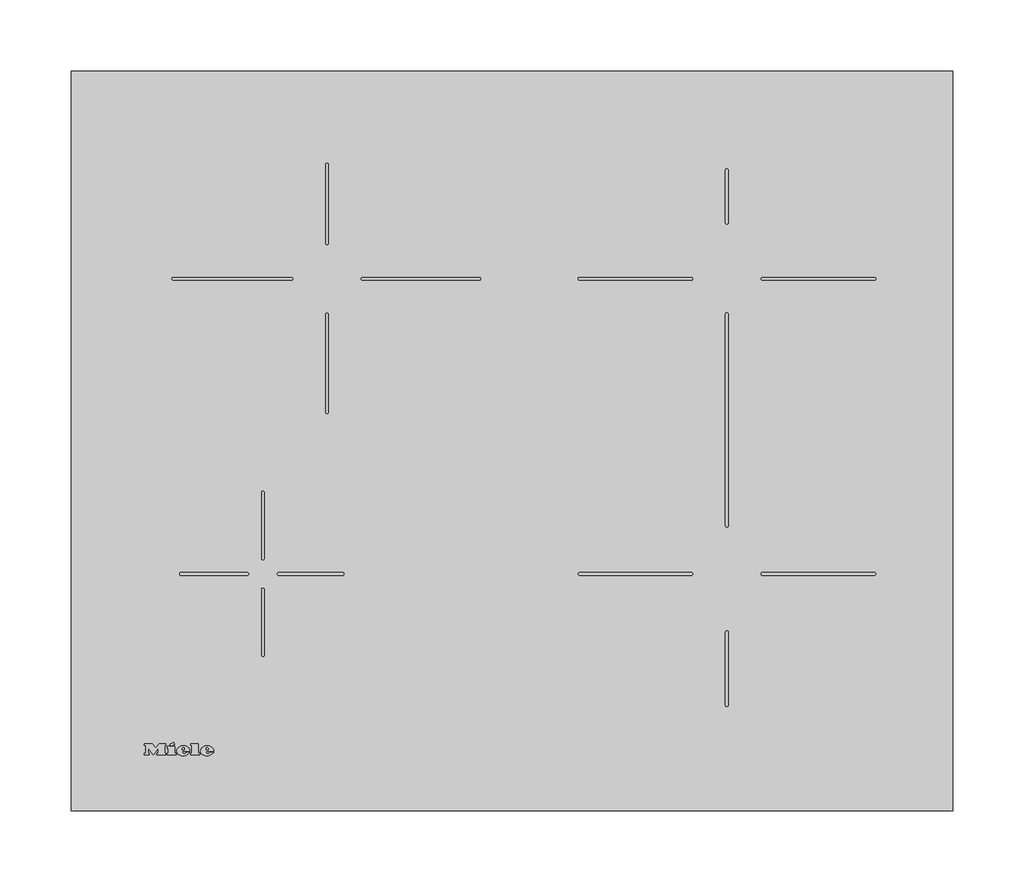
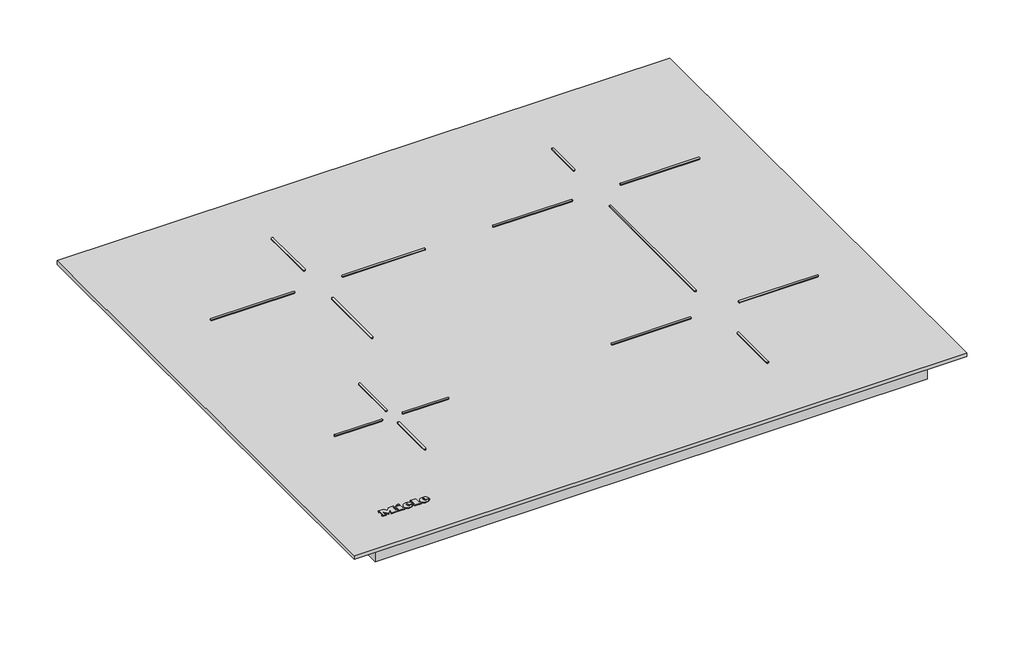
# Not in any storey: 1 proxy.
"""IFC4 building model written with IfcOpenShell, lengths in millimetres."""

import ifcopenshell
import ifcopenshell.guid

model = None  # the IFC model being written
_history = None  # IfcOwnerHistory: only IFC2X3 demands one
_inside = {}  # id of a spatial element -> (the spatial element, [elements in it])
_under = {}  # id of a project, library or spatial element -> (it, [spatial elements below it])
_declared = {}  # id of a project -> (the project, [libraries it declares])
_typed = {}  # id of a type object -> (the type object, [elements of that type])
_made_of = {}  # id of a material, layer set ... -> (it, [elements and type objects made of it])


def new_model(schema):
    """Start an empty IFC model of exactly this schema.

    Asked for "IFC4X3", IfcOpenShell would pick the latest addendum, in which some entities
    have other attributes; the version numbers below select the first issue.
    IFC2X3 requires an IfcOwnerHistory on every rooted entity: one is made here for all.
    """
    global model, _history
    if schema == "IFC4X3":
        model = ifcopenshell.file(schema_version=(4, 3, 0, 0))
    else:
        model = ifcopenshell.file(schema=schema)
    _inside.clear()
    _under.clear()
    _declared.clear()
    _typed.clear()
    _made_of.clear()
    _history = None
    if model.schema == "IFC2X3":
        org = make("IfcOrganization", Name="unknown")
        user = make(
            "IfcPersonAndOrganization",
            ThePerson=make("IfcPerson", FamilyName="unknown"),
            TheOrganization=org,
        )
        app = make(
            "IfcApplication",
            ApplicationDeveloper=org,
            Version="unknown",
            ApplicationFullName="unknown",
            ApplicationIdentifier="unknown",
        )
        _history = make(
            "IfcOwnerHistory",
            OwningUser=user,
            OwningApplication=app,
            ChangeAction="ADDED",
            CreationDate=0,
        )
    return model


def make(cls, **values):
    """One entity of the class cls with the attributes given. An attribute that is None is left unset."""
    return model.create_entity(
        cls, **{name: value for name, value in values.items() if value is not None}
    )


def rooted(cls, **values):
    """An entity with a GlobalId (a new one), such as an element, a storey or a relation."""
    return make(cls, GlobalId=ifcopenshell.guid.new(), OwnerHistory=_history, **values)


def si_unit(unit_type, name, prefix=None):
    """IfcSIUnit, for example si_unit("LENGTHUNIT", "METRE", prefix="MILLI")."""
    return make("IfcSIUnit", UnitType=unit_type, Prefix=prefix, Name=name)


def assignment(units):
    """IfcUnitAssignment: the units of a project."""
    return None if units is None else make("IfcUnitAssignment", Units=units)


def point(xyz):
    """IfcCartesianPoint."""
    return None if xyz is None else make("IfcCartesianPoint", Coordinates=xyz)


def direction(xyz):
    """IfcDirection."""
    return None if xyz is None else make("IfcDirection", DirectionRatios=xyz)


def frame(location, z_axis=None, x_axis=None):
    """IfcAxis2Placement3D, a coordinate frame: its origin and axes. An axis left out is left unset."""
    return make(
        "IfcAxis2Placement3D",
        Location=point(location),
        Axis=direction(z_axis),
        RefDirection=direction(x_axis),
    )


def frame_2d(location, x_axis=None):
    """IfcAxis2Placement2D, a coordinate frame in the plane: its origin and x axis."""
    return make(
        "IfcAxis2Placement2D", Location=point(location), RefDirection=direction(x_axis)
    )


def origin():
    """The frame at (0, 0, 0) with its axes left unset."""
    return frame((0.0, 0.0, 0.0))


def origin_with_axes():
    """The frame at (0, 0, 0) with the z axis (0, 0, 1) and the x axis (1, 0, 0) written out."""
    return frame((0.0, 0.0, 0.0), z_axis=(0.0, 0.0, 1.0), x_axis=(1.0, 0.0, 0.0))


def place(relative_to, where):
    """IfcLocalPlacement: puts the frame where relative to a parent placement (None: the world)."""
    return make(
        "IfcLocalPlacement", PlacementRelTo=relative_to, RelativePlacement=where
    )


def context(
    kind, dimensions, precision=None, world=None, true_north=None, identifier=None
):
    """IfcGeometricRepresentationContext, for example the 3D "Model" context."""
    return make(
        "IfcGeometricRepresentationContext",
        ContextIdentifier=identifier,
        ContextType=kind,
        CoordinateSpaceDimension=dimensions,
        Precision=precision,
        WorldCoordinateSystem=world,
        TrueNorth=true_north,
    )


def project(units=None, contexts=None):
    """IfcProject with its units and contexts."""
    return rooted(
        "IfcProject",
        Name="project",
        RepresentationContexts=contexts,
        UnitsInContext=assignment(units),
    )


def spatial(cls, under=None, at=None, **own):
    """A site, building, storey or space (cls), placed at a placement, below another one or the project."""
    s = rooted(cls, ObjectPlacement=at, **own)
    if under is not None:
        _under.setdefault(under.id(), (under, []))[1].append(s)
    return s


def polyline(points):
    """IfcPolyline through the points."""
    return make("IfcPolyline", Points=[point(p) for p in points])


def circle_curve(where, radius):
    """IfcCircle in the frame where."""
    return make("IfcCircle", Position=where, Radius=radius)


def ellipse_curve(where, semi_axis1, semi_axis2):
    """IfcEllipse in the frame where."""
    return make(
        "IfcEllipse", Position=where, SemiAxis1=semi_axis1, SemiAxis2=semi_axis2
    )


def trimmed(basis, trim1, trim2, sense, master):
    """IfcTrimmedCurve: the piece of a basis curve between two trims."""
    return make(
        "IfcTrimmedCurve",
        BasisCurve=basis,
        Trim1=trim1,
        Trim2=trim2,
        SenseAgreement=sense,
        MasterRepresentation=master,
    )


def segment(curve, same_sense, transition):
    """IfcCompositeCurveSegment."""
    return make(
        "IfcCompositeCurveSegment",
        Transition=transition,
        SameSense=same_sense,
        ParentCurve=curve,
    )


def composite_curve(segments, self_intersect=None):
    """IfcCompositeCurve: segments joined end to end."""
    return make("IfcCompositeCurve", Segments=segments, SelfIntersect=self_intersect)


def outline(outer, holes=None, kind="AREA"):
    """IfcArbitraryClosedProfileDef: a profile drawn as a closed curve; with holes, ...WithVoids."""
    if holes is None:
        return make("IfcArbitraryClosedProfileDef", ProfileType=kind, OuterCurve=outer)
    return make(
        "IfcArbitraryProfileDefWithVoids",
        ProfileType=kind,
        OuterCurve=outer,
        InnerCurves=holes,
    )


def extrude(swept, where, along, depth):
    """IfcExtrudedAreaSolid: the profile swept, set in the frame where, extruded along a direction by depth."""
    return make(
        "IfcExtrudedAreaSolid",
        SweptArea=swept,
        Position=where,
        ExtrudedDirection=direction(along),
        Depth=depth,
    )


def shape(context_of_items, identifier, shape_type, items):
    """IfcShapeRepresentation: the items that make up one representation, for example the "Body"."""
    return make(
        "IfcShapeRepresentation",
        ContextOfItems=context_of_items,
        RepresentationIdentifier=identifier,
        RepresentationType=shape_type,
        Items=items,
    )


def source(mapping_origin, context_of_items, identifier, shape_type, items):
    """IfcRepresentationMap: a shape defined once, which mapped items show again and again."""
    return make(
        "IfcRepresentationMap",
        MappingOrigin=mapping_origin,
        MappedRepresentation=shape(context_of_items, identifier, shape_type, items),
    )


def transform(
    local_origin,
    x_axis=None,
    y_axis=None,
    z_axis=None,
    scale=None,
    scale2=None,
    scale3=None,
    uniform=True,
):
    """IfcCartesianTransformationOperator3D, or its non-uniform kind. x_axis, y_axis, z_axis: its Axis1, 2, 3."""
    if uniform:
        return make(
            "IfcCartesianTransformationOperator3D",
            Axis1=direction(x_axis),
            Axis2=direction(y_axis),
            LocalOrigin=point(local_origin),
            Scale=scale,
            Axis3=direction(z_axis),
        )
    return make(
        "IfcCartesianTransformationOperator3DnonUniform",
        Axis1=direction(x_axis),
        Axis2=direction(y_axis),
        LocalOrigin=point(local_origin),
        Scale=scale,
        Axis3=direction(z_axis),
        Scale2=scale2,
        Scale3=scale3,
    )


def mapped(mapping_source, mapping_target):
    """IfcMappedItem: shows the shape of a source again, moved by a transform."""
    return make(
        "IfcMappedItem", MappingSource=mapping_source, MappingTarget=mapping_target
    )


def made_of(thing, what):
    """Note that an element or type object is made of a material, layer set ...; save() writes the relation."""
    if what is not None:
        _made_of.setdefault(what.id(), (what, []))[1].append(thing)
    return thing


def element(
    cls,
    number,
    at=None,
    inside=None,
    cuts=None,
    type_object=None,
    material=None,
    context=None,
    identifier="Body",
    shape_type=None,
    held_by="IfcProductDefinitionShape",
    body=None,
    shapes=None,
    **own,
):
    """One element of the class cls, such as IfcWall. Its Tag is "e" and its number.

    at: its placement. inside: the storey or other place that contains it. cuts: it is an
    opening in that element (IfcRelVoidsElement). A single representation is given by context,
    identifier, shape_type and body (its items); several are given by shapes. held_by: the class
    of the entity that holds the representations. save() writes the other relations.
    """
    e = rooted(cls, Tag="e%d" % number, ObjectPlacement=at, **own)
    if body is not None:
        shapes = [shape(context, identifier, shape_type, body)]
    if shapes is not None:
        e.Representation = make(held_by, Representations=shapes)
    if inside is not None:
        _inside.setdefault(inside.id(), (inside, []))[1].append(e)
    if cuts is not None:
        rooted(
            "IfcRelVoidsElement", RelatingBuildingElement=cuts, RelatedOpeningElement=e
        )
    if type_object is not None:
        _typed.setdefault(type_object.id(), (type_object, []))[1].append(e)
    return made_of(e, material)


def aggregate(whole, parts):
    """IfcRelAggregates: a whole, such as a stair, and the parts it consists of."""
    return rooted("IfcRelAggregates", RelatingObject=whole, RelatedObjects=parts)


def save(model, path):
    """Write the relations noted so far, then the file.

    IfcRelAggregates (storeys below a building ...), IfcRelContainedInSpatialStructure (elements
    in a storey), IfcRelDefinesByType, IfcRelAssociatesMaterial and IfcRelDeclares: one each for
    every whole, place, type object, material and project.
    """
    for whole, parts in _under.values():
        aggregate(whole, parts)
    for where, things in _inside.values():
        rooted(
            "IfcRelContainedInSpatialStructure",
            RelatedElements=things,
            RelatingStructure=where,
        )
    for kind, things in _typed.values():
        rooted("IfcRelDefinesByType", RelatedObjects=things, RelatingType=kind)
    for what, things in _made_of.values():
        rooted("IfcRelAssociatesMaterial", RelatedObjects=things, RelatingMaterial=what)
    for by, libraries in _declared.values():
        rooted("IfcRelDeclares", RelatingContext=by, RelatedDefinitions=libraries)
    model.write(path)


def plane_surface(at):
    """IfcPlane: the flat surface through the origin of the frame at, square to its z axis."""
    return make("IfcPlane", Position=at)


def cylinder_surface(at, radius):
    """IfcCylindricalSurface: all points at the distance radius from the z axis of the frame at."""
    return make("IfcCylindricalSurface", Position=at, Radius=radius)


def revolved_surface(curve, axis_point, axis_direction):
    """IfcSurfaceOfRevolution: the curve turned about the line through axis_point along axis_direction."""
    return make(
        "IfcSurfaceOfRevolution",
        SweptCurve=make("IfcArbitraryOpenProfileDef", ProfileType="CURVE", Curve=curve),
        AxisPosition=make("IfcAxis1Placement", Location=point(axis_point), Axis=direction(axis_direction)),
    )


def extruded_surface(curve, direction_of_extrusion, depth):
    """IfcSurfaceOfLinearExtrusion: the curve pushed along a direction by depth."""
    return make(
        "IfcSurfaceOfLinearExtrusion",
        SweptCurve=make("IfcArbitraryOpenProfileDef", ProfileType="CURVE", Curve=curve),
        ExtrudedDirection=direction(direction_of_extrusion),
        Depth=depth,
    )


def advanced_brep(points, edges, surfaces, faces):
    """IfcAdvancedBrep: a solid bounded by faces that lie on surfaces and meet in shared edges.

    An edge is (start, end): straight between two places in points (the first is 0);
    or (start, end, curve); or (start, end, curve, False) where it runs against its curve.
    A face is (place in surfaces, loops), or (place, loops, False) where it looks against
    its surface's normal. A loop lists edges by number (the first is 1), with a minus sign
    where the edge is run from its end to its start. The first loop is the outer one.
    """
    corners = [point(p) for p in points]
    vertices = [make("IfcVertexPoint", VertexGeometry=c) for c in corners]
    made = []
    for start, end, *more in edges:
        made.append(
            make(
                "IfcEdgeCurve",
                EdgeStart=vertices[start],
                EdgeEnd=vertices[end],
                EdgeGeometry=more[0] if more else make("IfcPolyline", Points=[corners[start], corners[end]]),
                SameSense=more[1] if len(more) > 1 else True,
            )
        )
    hull = []
    for where, loops, *sense in faces:
        bounds = []
        for j, loop in enumerate(loops):
            ring = [make("IfcOrientedEdge", EdgeElement=made[abs(k) - 1], Orientation=k > 0) for k in loop]
            bounds.append(
                make(
                    "IfcFaceOuterBound" if j == 0 else "IfcFaceBound",
                    Bound=make("IfcEdgeLoop", EdgeList=ring),
                    Orientation=True,
                )
            )
        hull.append(make("IfcAdvancedFace", Bounds=bounds, FaceSurface=surfaces[where], SameSense=sense[0] if sense else True))
    return make("IfcAdvancedBrep", Outer=make("IfcClosedShell", CfsFaces=hull))


def specialty_equipment_5ce986eb(model_context):
    return source(origin(), model_context, "Body", "SolidModel", [
        advanced_brep(
        [(-214.911984, 41.066, 5.0000007), (-214.911984, 41.874, 5.0000007), (-209.559984, 41.874, 5.0000007), (-218.871984, 41.874, 5.0000007), (-216.671984, 39.17, 5.0000007), (-209.695984, 41.066, 5.0000007), (-212.111984, 41.066, 5.0000007), (-214.015984, 40.17, 5.0000007), (-214.911984, 42.898, 5.0000007), (-214.911984, 43.77, 5.0000007), (-213.543984, 43.77, 5.0000007), (-213.543984, 42.898, 5.0000007), (-214.911984, 41.066, 4.0000007), (-214.015984, 40.17, 4.0000007), (-212.111984, 41.066, 4.0000007), (-209.695984, 41.066, 4.0000007), (-216.671984, 39.17, 4.0000007), (-218.871984, 41.874, 4.0000007), (-209.559984, 41.874, 4.0000007), (-214.911984, 41.874, 4.0000007), (-214.911984, 42.898, 4.0000007), (-213.543984, 42.898, 4.0000007), (-213.543984, 43.77, 4.0000007), (-214.911984, 43.77, 4.0000007)],
        [
            (0, 1),
            (1, 2),
            (2, 3, ellipse_curve(frame((-214.215984, 41.874, 5.0000007), z_axis=(0.0, 0.0, 1.0), x_axis=(-1.0, 0.0, 0.0)), 4.656, 3.848)),
            (3, 4, circle_curve(frame((-215.7759404, 42.146, 5.0000007), z_axis=(0.0, 0.0, 1.0), x_axis=(0.0, -1.0, 0.0)), 3.1079688)),
            (4, 5, circle_curve(frame((-214.3091904, 44.258, 5.0000007), z_axis=(0.0, 0.0, 1.0), x_axis=(0.0, -1.0, 0.0)), 5.6098607)),
            (5, 6),
            (6, 7, circle_curve(frame((-213.6249252, 41.81, 5.0000007), z_axis=(0.0, 0.0, -1.0), x_axis=(0.0, -1.0, 0.0)), 1.6859795)),
            (7, 0, circle_curve(frame((-214.015984, 41.066, 5.0000007), z_axis=(0.0, 0.0, -1.0), x_axis=(0.0, -1.0, 0.0)), 0.896)),
            (8, 9),
            (9, 10, circle_curve(frame((-214.227984, 43.77, 5.0000007), z_axis=(0.0, 0.0, -1.0), x_axis=(0.0, -1.0, 0.0)), 0.684)),
            (10, 11),
            (11, 8),
            (12, 13, circle_curve(frame((-214.015984, 41.066, 4.0000007), z_axis=(0.0, 0.0, 1.0), x_axis=(0.0, -1.0, 0.0)), 0.896)),
            (13, 14, circle_curve(frame((-213.6249252, 41.81, 4.0000007), z_axis=(0.0, 0.0, 1.0), x_axis=(0.0, -1.0, 0.0)), 1.6859795)),
            (14, 15),
            (15, 16, circle_curve(frame((-214.3091904, 44.258, 4.0000007), z_axis=(0.0, 0.0, -1.0), x_axis=(0.0, -1.0, 0.0)), 5.6098607)),
            (16, 17, circle_curve(frame((-215.7759404, 42.146, 4.0000007), z_axis=(0.0, 0.0, -1.0), x_axis=(0.0, -1.0, 0.0)), 3.1079688)),
            (17, 18, ellipse_curve(frame((-214.215984, 41.874, 4.0000007), z_axis=(0.0, 0.0, -1.0), x_axis=(-1.0, 0.0, 0.0)), 4.656, 3.848)),
            (18, 19),
            (19, 12),
            (20, 21),
            (21, 22),
            (22, 23, circle_curve(frame((-214.227984, 43.77, 4.0000007), z_axis=(0.0, 0.0, 1.0), x_axis=(0.0, -1.0, 0.0)), 0.684)),
            (23, 20),
            (0, 12),
            (19, 1),
            (18, 2),
            (5, 15),
            (14, 6),
            (17, 3),
            (13, 7),
            (16, 4),
            (8, 20),
            (23, 9),
            (22, 10),
            (21, 11),
        ],
        [
            plane_surface(frame((-214.911984, 41.874, 5.0000007), z_axis=(0.0, 0.0, 1.0), x_axis=(0.0, 1.0, 0.0))),
            plane_surface(frame((-214.911984, 41.874, 4.0000007), z_axis=(0.0, 0.0, -1.0), x_axis=(0.0, -1.0, 0.0))),
            plane_surface(frame((-214.911984, 41.066, 5.0000007), z_axis=(1.0, 0.0, 0.0), x_axis=(0.0, 0.0, -1.0))),
            plane_surface(frame((-214.911984, 41.874, 5.0000007), z_axis=(0.0, -1.0, 0.0), x_axis=(0.0, 0.0, -1.0))),
            plane_surface(frame((-209.695984, 41.066, 5.0000007), z_axis=(0.0, 1.0, 0.0), x_axis=(0.0, 0.0, -1.0))),
            extruded_surface(trimmed(ellipse_curve(frame((-214.215984, 41.874, 3.0000007), z_axis=(0.0, 0.0, 1.0), x_axis=(-1.0, 0.0, 0.0)), 4.656, 3.848), [point((-209.559984, 41.874, 3.0000007))], [point((-218.871984, 41.874, 3.0000007))], True, "CARTESIAN"), (0.0, 0.0, 1.0), 1.0),
            revolved_surface(polyline([(-213.6249252, 40.1240205, 4.0000007), (-213.6249252, 40.1240205, 5.0000007)]), (-213.6249252, 41.81, 4.0000007), (0.0, 0.0, -1.0)),
            revolved_surface(polyline([(-214.015984, 40.17, 4.0000007), (-214.015984, 40.17, 5.0000007)]), (-214.015984, 41.066, 4.0000007), (0.0, 0.0, -1.0)),
            cylinder_surface(frame((-215.7759404, 42.146, 4.0000007), z_axis=(0.0, 0.0, 1.0), x_axis=(0.0, -1.0, 0.0)), 3.1079688),
            cylinder_surface(frame((-214.3091904, 44.258, 4.0000007), z_axis=(0.0, 0.0, 1.0), x_axis=(0.0, -1.0, 0.0)), 5.6098607),
            plane_surface(frame((-214.911984, 42.898, 5.0000007), z_axis=(1.0, 0.0, 0.0), x_axis=(0.0, 0.0, -1.0))),
            revolved_surface(polyline([(-214.227984, 43.086000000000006, 4.0000007), (-214.227984, 43.086000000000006, 5.0000007)]), (-214.227984, 43.77, 4.0000007), (0.0, 0.0, -1.0)),
            plane_surface(frame((-213.543984, 43.77, 5.0000007), z_axis=(-1.0, 0.0, 0.0), x_axis=(0.0, 0.0, -1.0))),
            plane_surface(frame((-213.543984, 42.898, 5.0000007), z_axis=(0.0, 1.0, 0.0), x_axis=(0.0, 0.0, -1.0))),
        ],
        [
            (0, [[1, 2, 3, 4, 5, 6, 7, 8], [9, 10, 11, 12]]),
            (1, [[13, 14, 15, 16, 17, 18, 19, 20], [21, 22, 23, 24]]),
            (2, [[-1, 25, -20, 26]]),
            (3, [[-2, -26, -19, 27]]),
            (4, [[-6, 28, -15, 29]]),
            (5, [[-3, -27, -18, 30]]),
            (6, [[-7, -29, -14, 31]]),
            (7, [[-8, -31, -13, -25]]),
            (8, [[-4, -30, -17, 32]]),
            (9, [[-5, -32, -16, -28]]),
            (10, [[-9, 33, -24, 34]]),
            (11, [[-10, -34, -23, 35]]),
            (12, [[-11, -35, -22, 36]]),
            (13, [[-12, -36, -21, -33]]),
        ],
    ),
        advanced_brep(
        [(-231.607984, 41.066, 5.0000007), (-231.607984, 41.874, 5.0000007), (-226.255984, 41.874, 5.0000007), (-235.567984, 41.874, 5.0000007), (-233.367984, 39.17, 5.0000007), (-226.391984, 41.066, 5.0000007), (-228.807984, 41.066, 5.0000007), (-230.711984, 40.17, 5.0000007), (-231.607984, 42.898, 5.0000007), (-231.607984, 43.77, 5.0000007), (-230.239984, 43.77, 5.0000007), (-230.239984, 42.898, 5.0000007), (-231.607984, 41.066, 4.0000007), (-230.711984, 40.17, 4.0000007), (-228.807984, 41.066, 4.0000007), (-226.391984, 41.066, 4.0000007), (-233.367984, 39.17, 4.0000007), (-235.567984, 41.874, 4.0000007), (-226.255984, 41.874, 4.0000007), (-231.607984, 41.874, 4.0000007), (-231.607984, 42.898, 4.0000007), (-230.239984, 42.898, 4.0000007), (-230.239984, 43.77, 4.0000007), (-231.607984, 43.77, 4.0000007)],
        [
            (0, 1),
            (1, 2),
            (2, 3, ellipse_curve(frame((-230.911984, 41.874, 5.0000007), z_axis=(0.0, 0.0, 1.0), x_axis=(-1.0, 0.0, 0.0)), 4.656, 3.848)),
            (3, 4, circle_curve(frame((-232.4719404, 42.146, 5.0000007), z_axis=(0.0, 0.0, 1.0), x_axis=(0.0, -1.0, 0.0)), 3.1079688)),
            (4, 5, circle_curve(frame((-231.0051904, 44.258, 5.0000007), z_axis=(0.0, 0.0, 1.0), x_axis=(0.0, -1.0, 0.0)), 5.6098607)),
            (5, 6),
            (6, 7, circle_curve(frame((-230.3209252, 41.81, 5.0000007), z_axis=(0.0, 0.0, -1.0), x_axis=(0.0, -1.0, 0.0)), 1.6859795)),
            (7, 0, circle_curve(frame((-230.711984, 41.066, 5.0000007), z_axis=(0.0, 0.0, -1.0), x_axis=(0.0, -1.0, 0.0)), 0.896)),
            (8, 9),
            (9, 10, circle_curve(frame((-230.923984, 43.77, 5.0000007), z_axis=(0.0, 0.0, -1.0), x_axis=(0.0, -1.0, 0.0)), 0.684)),
            (10, 11),
            (11, 8),
            (12, 13, circle_curve(frame((-230.711984, 41.066, 4.0000007), z_axis=(0.0, 0.0, 1.0), x_axis=(0.0, -1.0, 0.0)), 0.896)),
            (13, 14, circle_curve(frame((-230.3209252, 41.81, 4.0000007), z_axis=(0.0, 0.0, 1.0), x_axis=(0.0, -1.0, 0.0)), 1.6859795)),
            (14, 15),
            (15, 16, circle_curve(frame((-231.0051904, 44.258, 4.0000007), z_axis=(0.0, 0.0, -1.0), x_axis=(0.0, -1.0, 0.0)), 5.6098607)),
            (16, 17, circle_curve(frame((-232.4719404, 42.146, 4.0000007), z_axis=(0.0, 0.0, -1.0), x_axis=(0.0, -1.0, 0.0)), 3.1079688)),
            (17, 18, ellipse_curve(frame((-230.911984, 41.874, 4.0000007), z_axis=(0.0, 0.0, -1.0), x_axis=(-1.0, 0.0, 0.0)), 4.656, 3.848)),
            (18, 19),
            (19, 12),
            (20, 21),
            (21, 22),
            (22, 23, circle_curve(frame((-230.923984, 43.77, 4.0000007), z_axis=(0.0, 0.0, 1.0), x_axis=(0.0, -1.0, 0.0)), 0.684)),
            (23, 20),
            (0, 12),
            (19, 1),
            (18, 2),
            (5, 15),
            (14, 6),
            (17, 3),
            (13, 7),
            (16, 4),
            (8, 20),
            (23, 9),
            (22, 10),
            (21, 11),
        ],
        [
            plane_surface(frame((-231.607984, 41.874, 5.0000007), z_axis=(0.0, 0.0, 1.0), x_axis=(0.0, 1.0, 0.0))),
            plane_surface(frame((-231.607984, 41.874, 4.0000007), z_axis=(0.0, 0.0, -1.0), x_axis=(0.0, -1.0, 0.0))),
            plane_surface(frame((-231.607984, 41.066, 5.0000007), z_axis=(1.0, 0.0, 0.0), x_axis=(0.0, 0.0, -1.0))),
            plane_surface(frame((-231.607984, 41.874, 5.0000007), z_axis=(0.0, -1.0, 0.0), x_axis=(0.0, 0.0, -1.0))),
            plane_surface(frame((-226.391984, 41.066, 5.0000007), z_axis=(0.0, 1.0, 0.0), x_axis=(0.0, 0.0, -1.0))),
            extruded_surface(trimmed(ellipse_curve(frame((-230.911984, 41.874, 3.0000007), z_axis=(0.0, 0.0, 1.0), x_axis=(-1.0, 0.0, 0.0)), 4.656, 3.848), [point((-226.255984, 41.874, 3.0000007))], [point((-235.567984, 41.874, 3.0000007))], True, "CARTESIAN"), (0.0, 0.0, 1.0), 1.0),
            revolved_surface(polyline([(-230.3209252, 40.1240205, 4.0000007), (-230.3209252, 40.1240205, 5.0000007)]), (-230.3209252, 41.81, 4.0000007), (0.0, 0.0, -1.0)),
            revolved_surface(polyline([(-230.711984, 40.17, 4.0000007), (-230.711984, 40.17, 5.0000007)]), (-230.711984, 41.066, 4.0000007), (0.0, 0.0, -1.0)),
            cylinder_surface(frame((-232.4719404, 42.146, 4.0000007), z_axis=(0.0, 0.0, 1.0), x_axis=(0.0, -1.0, 0.0)), 3.1079688),
            cylinder_surface(frame((-231.0051904, 44.258, 4.0000007), z_axis=(0.0, 0.0, 1.0), x_axis=(0.0, -1.0, 0.0)), 5.6098607),
            plane_surface(frame((-231.607984, 42.898, 5.0000007), z_axis=(1.0, 0.0, 0.0), x_axis=(0.0, 0.0, -1.0))),
            revolved_surface(polyline([(-230.923984, 43.086000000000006, 4.0000007), (-230.923984, 43.086000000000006, 5.0000007)]), (-230.923984, 43.77, 4.0000007), (0.0, 0.0, -1.0)),
            plane_surface(frame((-230.239984, 43.77, 5.0000007), z_axis=(-1.0, 0.0, 0.0), x_axis=(0.0, 0.0, -1.0))),
            plane_surface(frame((-230.239984, 42.898, 5.0000007), z_axis=(0.0, 1.0, 0.0), x_axis=(0.0, 0.0, -1.0))),
        ],
        [
            (0, [[1, 2, 3, 4, 5, 6, 7, 8], [9, 10, 11, 12]]),
            (1, [[13, 14, 15, 16, 17, 18, 19, 20], [21, 22, 23, 24]]),
            (2, [[-1, 25, -20, 26]]),
            (3, [[-2, -26, -19, 27]]),
            (4, [[-6, 28, -15, 29]]),
            (5, [[-3, -27, -18, 30]]),
            (6, [[-7, -29, -14, 31]]),
            (7, [[-8, -31, -13, -25]]),
            (8, [[-4, -30, -17, 32]]),
            (9, [[-5, -32, -16, -28]]),
            (10, [[-9, 33, -24, 34]]),
            (11, [[-10, -34, -23, 35]]),
            (12, [[-11, -35, -22, 36]]),
            (13, [[-12, -36, -21, -33]]),
        ],
    ),
        extrude(outline(polyline([(-240.351984, 46.698), (-237.631984, 47.962), (-237.031984, 46.666), (-239.743984, 45.402), (-240.351984, 46.698)])), frame((0.0, 0.0, 4.0000007), z_axis=(0.0, 0.0, 1.0), x_axis=(1.0, 0.0, 0.0)), (0.0, 0.0, 1.0), 1.0),
        extrude(outline(polyline([(-242.327984, 45.226), (-236.943984, 45.226), (-236.943984, 40.514), (-236.015984, 40.514), (-236.015984, 39.17), (-242.327984, 39.17), (-242.327984, 40.514), (-241.375984, 40.514), (-241.375984, 43.794), (-242.327984, 43.794), (-242.327984, 45.226)])), frame((0.0, 0.0, 4.0000007), z_axis=(0.0, 0.0, 1.0), x_axis=(1.0, 0.0, 0.0)), (0.0, 0.0, 1.0), 1.0),
        extrude(outline(polyline([(-225.807984, 45.866), (-225.807984, 47.17), (-220.303984, 47.17), (-220.303984, 40.514), (-219.319984, 40.514), (-219.319984, 39.17), (-225.807984, 39.17), (-225.807984, 40.514), (-224.847984, 40.514), (-224.847984, 45.866), (-225.807984, 45.866)])), frame((0.0, 0.0, 4.0000007), z_axis=(0.0, 0.0, 1.0), x_axis=(1.0, 0.0, 0.0)), (0.0, 0.0, 1.0), 1.0),
        extrude(outline(polyline([(-258.271984, 45.866), (-258.271984, 47.17), (-252.695984, 47.17), (-250.351984, 44.17), (-248.015984, 47.17), (-243.143984, 47.17), (-243.143984, 45.866), (-244.159984, 45.866), (-244.159984, 40.514), (-243.143984, 40.514), (-243.143984, 39.17), (-249.527984, 39.17), (-249.527984, 40.514), (-248.543984, 40.514), (-248.543984, 43.9852223), (-252.135984, 39.17), (-255.711984, 43.9171247), (-255.711984, 40.514), (-254.751984, 40.514), (-254.751984, 39.17), (-258.271984, 39.17), (-258.271984, 40.514), (-257.303984, 40.514), (-257.303984, 45.866), (-258.271984, 45.866)])), frame((0.0, 0.0, 4.0000007), z_axis=(0.0, 0.0, 1.0), x_axis=(1.0, 0.0, 0.0)), (0.0, 0.0, 1.0), 1.0),
        extrude(outline(composite_curve([segment(trimmed(circle_curve(frame_2d((-130.0, 454.215881)), 1.0), [point((-131.0, 454.215881))], [point((-129.0, 454.215881))], False, "CARTESIAN"), True, "CONTINUOUS"), segment(polyline([(-129.0, 454.215881), (-129.0, 399.0)]), True, "CONTINUOUS"), segment(trimmed(circle_curve(frame_2d((-130.0, 399.0)), 1.0), [point((-129.0, 399.0))], [point((-131.0, 399.0))], False, "CARTESIAN"), True, "CONTINUOUS"), segment(polyline([(-131.0, 399.0), (-131.0, 454.215881)]), True, "CONTINUOUS")], self_intersect=False)), frame((0.0, 0.0, 4.0000007), z_axis=(0.0, 0.0, 1.0), x_axis=(1.0, 0.0, 0.0)), (0.0, 0.0, 1.0), 1.0),
        extrude(outline(composite_curve([segment(polyline([(-23.0464469, 373.0), (-105.0, 373.0)]), True, "CONTINUOUS"), segment(trimmed(circle_curve(frame_2d((-105.0, 374.0)), 1.0), [point((-105.0, 373.0))], [point((-105.0, 375.0))], False, "CARTESIAN"), True, "CONTINUOUS"), segment(polyline([(-105.0, 375.0), (-23.0464469, 375.0)]), True, "CONTINUOUS"), segment(trimmed(circle_curve(frame_2d((-23.0464469, 374.0)), 1.0), [point((-23.0464469, 375.0))], [point((-23.0464469, 373.0))], False, "CARTESIAN"), True, "CONTINUOUS")], self_intersect=False)), frame((0.0, 0.0, 4.0000007), z_axis=(0.0, 0.0, 1.0), x_axis=(1.0, 0.0, 0.0)), (0.0, 0.0, 1.0), 1.0),
        extrude(outline(composite_curve([segment(trimmed(circle_curve(frame_2d((-237.9080744, 374.0)), 1.0), [point((-237.9080744, 373.0))], [point((-237.9080744, 375.0))], False, "CARTESIAN"), True, "CONTINUOUS"), segment(polyline([(-237.9080744, 375.0), (-155.0, 375.0)]), True, "CONTINUOUS"), segment(trimmed(circle_curve(frame_2d((-155.0, 374.0)), 1.0), [point((-155.0, 375.0))], [point((-155.0, 373.0))], False, "CARTESIAN"), True, "CONTINUOUS"), segment(polyline([(-155.0, 373.0), (-237.9080744, 373.0)]), True, "CONTINUOUS")], self_intersect=False)), frame((0.0, 0.0, 4.0000007), z_axis=(0.0, 0.0, 1.0), x_axis=(1.0, 0.0, 0.0)), (0.0, 0.0, 1.0), 1.0),
        extrude(outline(composite_curve([segment(polyline([(-176.0, 177.5), (-176.0, 223.6606747)]), True, "CONTINUOUS"), segment(trimmed(circle_curve(frame_2d((-175.0, 223.6606747)), 1.0), [point((-176.0, 223.6606747))], [point((-174.0, 223.6606747))], False, "CARTESIAN"), True, "CONTINUOUS"), segment(polyline([(-174.0, 223.6606747), (-174.0, 177.5)]), True, "CONTINUOUS"), segment(trimmed(circle_curve(frame_2d((-175.0, 177.5)), 1.0), [point((-174.0, 177.5))], [point((-176.0, 177.5))], False, "CARTESIAN"), True, "CONTINUOUS")], self_intersect=False)), frame((0.0, 0.0, 4.0000007), z_axis=(0.0, 0.0, 1.0), x_axis=(1.0, 0.0, 0.0)), (0.0, 0.0, 1.0), 1.0),
        extrude(outline(composite_curve([segment(trimmed(circle_curve(frame_2d((-175.0, 155.4410817)), 1.0), [point((-176.0, 155.4410817))], [point((-174.0, 155.4410817))], False, "CARTESIAN"), True, "CONTINUOUS"), segment(polyline([(-174.0, 155.4410817), (-174.0, 109.5)]), True, "CONTINUOUS"), segment(trimmed(circle_curve(frame_2d((-175.0, 109.5)), 1.0), [point((-174.0, 109.5))], [point((-176.0, 109.5))], False, "CARTESIAN"), True, "CONTINUOUS"), segment(polyline([(-176.0, 109.5), (-176.0, 155.4410817)]), True, "CONTINUOUS")], self_intersect=False)), frame((0.0, 0.0, 4.0000007), z_axis=(0.0, 0.0, 1.0), x_axis=(1.0, 0.0, 0.0)), (0.0, 0.0, 1.0), 1.0),
        extrude(outline(composite_curve([segment(polyline([(150.0, 413.4860171), (150.0, 450.2771149)]), True, "CONTINUOUS"), segment(trimmed(circle_curve(frame_2d((151.0, 450.2771149)), 1.0), [point((150.0, 450.2771149))], [point((152.0, 450.2771149))], False, "CARTESIAN"), True, "CONTINUOUS"), segment(polyline([(152.0, 450.2771149), (152.0, 413.4860171)]), True, "CONTINUOUS"), segment(trimmed(circle_curve(frame_2d((151.0, 413.4860171)), 1.0), [point((152.0, 413.4860171))], [point((150.0, 413.4860171))], False, "CARTESIAN"), True, "CONTINUOUS")], self_intersect=False)), frame((0.0, 0.0, 4.0000007), z_axis=(0.0, 0.0, 1.0), x_axis=(1.0, 0.0, 0.0)), (0.0, 0.0, 1.0), 1.0),
        extrude(outline(composite_curve([segment(trimmed(circle_curve(frame_2d((-164.0, 166.5)), 1.0), [point((-164.0, 165.5))], [point((-164.0, 167.5))], False, "CARTESIAN"), True, "CONTINUOUS"), segment(polyline([(-164.0, 167.5), (-119.1108224, 167.5)]), True, "CONTINUOUS"), segment(trimmed(circle_curve(frame_2d((-119.1108224, 166.5)), 1.0), [point((-119.1108224, 167.5))], [point((-119.1108224, 165.5))], False, "CARTESIAN"), True, "CONTINUOUS"), segment(polyline([(-119.1108224, 165.5), (-164.0, 165.5)]), True, "CONTINUOUS")], self_intersect=False)), frame((0.0, 0.0, 4.0000007), z_axis=(0.0, 0.0, 1.0), x_axis=(1.0, 0.0, 0.0)), (0.0, 0.0, 1.0), 1.0),
        extrude(outline(composite_curve([segment(polyline([(-186.0, 165.5), (-232.6272894, 165.5)]), True, "CONTINUOUS"), segment(trimmed(circle_curve(frame_2d((-232.6272894, 166.5)), 1.0), [point((-232.6272894, 165.5))], [point((-232.6272894, 167.5))], False, "CARTESIAN"), True, "CONTINUOUS"), segment(polyline([(-232.6272894, 167.5), (-186.0, 167.5)]), True, "CONTINUOUS"), segment(trimmed(circle_curve(frame_2d((-186.0, 166.5)), 1.0), [point((-186.0, 167.5))], [point((-186.0, 165.5))], False, "CARTESIAN"), True, "CONTINUOUS")], self_intersect=False)), frame((0.0, 0.0, 4.0000007), z_axis=(0.0, 0.0, 1.0), x_axis=(1.0, 0.0, 0.0)), (0.0, 0.0, 1.0), 1.0),
        extrude(outline(composite_curve([segment(polyline([(126.0, 165.5), (47.5296024, 165.5)]), True, "CONTINUOUS"), segment(trimmed(circle_curve(frame_2d((47.5296024, 166.5)), 1.0), [point((47.5296024, 165.5))], [point((47.5296024, 167.5))], False, "CARTESIAN"), True, "CONTINUOUS"), segment(polyline([(47.5296024, 167.5), (126.0, 167.5)]), True, "CONTINUOUS"), segment(trimmed(circle_curve(frame_2d((126.0, 166.5)), 1.0), [point((126.0, 167.5))], [point((126.0, 165.5))], False, "CARTESIAN"), True, "CONTINUOUS")], self_intersect=False)), frame((0.0, 0.0, 4.0000007), z_axis=(0.0, 0.0, 1.0), x_axis=(1.0, 0.0, 0.0)), (0.0, 0.0, 1.0), 1.0),
        extrude(outline(composite_curve([segment(polyline([(150.0, 74.2663736), (150.0, 125.4452272)]), True, "CONTINUOUS"), segment(trimmed(circle_curve(frame_2d((151.0, 125.4452272)), 1.0), [point((150.0, 125.4452272))], [point((152.0, 125.4452272))], False, "CARTESIAN"), True, "CONTINUOUS"), segment(polyline([(152.0, 125.4452272), (152.0, 74.2663736)]), True, "CONTINUOUS"), segment(trimmed(circle_curve(frame_2d((151.0, 74.2663736)), 1.0), [point((152.0, 74.2663736))], [point((150.0, 74.2663736))], False, "CARTESIAN"), True, "CONTINUOUS")], self_intersect=False)), frame((0.0, 0.0, 4.0000007), z_axis=(0.0, 0.0, 1.0), x_axis=(1.0, 0.0, 0.0)), (0.0, 0.0, 1.0), 1.0),
        extrude(outline(composite_curve([segment(polyline([(152.0, 349.0843418), (152.0, 200.5399283)]), True, "CONTINUOUS"), segment(trimmed(circle_curve(frame_2d((151.0, 200.5399283)), 1.0), [point((152.0, 200.5399283))], [point((150.0, 200.5399283))], False, "CARTESIAN"), True, "CONTINUOUS"), segment(polyline([(150.0, 200.5399283), (150.0, 349.0843418)]), True, "CONTINUOUS"), segment(trimmed(circle_curve(frame_2d((151.0, 349.0843418)), 1.0), [point((150.0, 349.0843418))], [point((152.0, 349.0843418))], False, "CARTESIAN"), True, "CONTINUOUS")], self_intersect=False)), frame((0.0, 0.0, 4.0000007), z_axis=(0.0, 0.0, 1.0), x_axis=(1.0, 0.0, 0.0)), (0.0, 0.0, 1.0), 1.0),
        extrude(outline(composite_curve([segment(trimmed(circle_curve(frame_2d((176.0, 166.5)), 1.0), [point((176.0, 165.5))], [point((176.0, 167.5))], False, "CARTESIAN"), True, "CONTINUOUS"), segment(polyline([(176.0, 167.5), (254.4703976, 167.5)]), True, "CONTINUOUS"), segment(trimmed(circle_curve(frame_2d((254.4703976, 166.5)), 1.0), [point((254.4703976, 167.5))], [point((254.4703976, 165.5))], False, "CARTESIAN"), True, "CONTINUOUS"), segment(polyline([(254.4703976, 165.5), (176.0, 165.5)]), True, "CONTINUOUS")], self_intersect=False)), frame((0.0, 0.0, 4.0000007), z_axis=(0.0, 0.0, 1.0), x_axis=(1.0, 0.0, 0.0)), (0.0, 0.0, 1.0), 1.0),
        extrude(outline(composite_curve([segment(polyline([(125.9136914, 373.0), (47.444481, 373.0)]), True, "CONTINUOUS"), segment(trimmed(circle_curve(frame_2d((47.444481, 374.0)), 1.0), [point((47.444481, 373.0))], [point((47.444481, 375.0))], False, "CARTESIAN"), True, "CONTINUOUS"), segment(polyline([(47.444481, 375.0), (125.9136914, 375.0)]), True, "CONTINUOUS"), segment(trimmed(circle_curve(frame_2d((125.9136914, 374.0)), 1.0), [point((125.9136914, 375.0))], [point((125.9136914, 373.0))], False, "CARTESIAN"), True, "CONTINUOUS")], self_intersect=False)), frame((0.0, 0.0, 4.0000007), z_axis=(0.0, 0.0, 1.0), x_axis=(1.0, 0.0, 0.0)), (0.0, 0.0, 1.0), 1.0),
        extrude(outline(composite_curve([segment(trimmed(circle_curve(frame_2d((176.0863086, 374.0)), 1.0), [point((176.0863086, 373.0))], [point((176.0863086, 375.0))], False, "CARTESIAN"), True, "CONTINUOUS"), segment(polyline([(176.0863086, 375.0), (254.555519, 375.0)]), True, "CONTINUOUS"), segment(trimmed(circle_curve(frame_2d((254.555519, 374.0)), 1.0), [point((254.555519, 375.0))], [point((254.555519, 373.0))], False, "CARTESIAN"), True, "CONTINUOUS"), segment(polyline([(254.555519, 373.0), (176.0863086, 373.0)]), True, "CONTINUOUS")], self_intersect=False)), frame((0.0, 0.0, 4.0000007), z_axis=(0.0, 0.0, 1.0), x_axis=(1.0, 0.0, 0.0)), (0.0, 0.0, 1.0), 1.0),
        extrude(outline(composite_curve([segment(polyline([(-131.0, 280.1710047), (-131.0, 348.8348457)]), True, "CONTINUOUS"), segment(trimmed(circle_curve(frame_2d((-130.0, 348.8348457)), 1.0), [point((-131.0, 348.8348457))], [point((-129.0, 348.8348457))], False, "CARTESIAN"), True, "CONTINUOUS"), segment(polyline([(-129.0, 348.8348457), (-129.0, 280.1710047)]), True, "CONTINUOUS"), segment(trimmed(circle_curve(frame_2d((-130.0, 280.1710047)), 1.0), [point((-129.0, 280.1710047))], [point((-131.0, 280.1710047))], False, "CARTESIAN"), True, "CONTINUOUS")], self_intersect=False)), frame((0.0, 0.0, 4.0000007), z_axis=(0.0, 0.0, 1.0), x_axis=(1.0, 0.0, 0.0)), (0.0, 0.0, 1.0), 1.0),
        extrude(outline(polyline([(186.7938197, 480.0), (186.7938197, 362.7202614), (189.0, 362.7202614), (189.0, 76.0), (-105.0, 76.0), (-105.0, 480.0), (186.7938197, 480.0)])), frame((0.0, 0.0, -49.1723575), z_axis=(0.0, 0.0, 1.0), x_axis=(1.0, 0.0, 0.0)), (0.0, 0.0, 1.0), 26.1723575),
        extrude(outline(polyline([(279.0, 504.0), (279.0, 16.0), (-279.0, 16.0), (-279.0, 504.0), (279.0, 504.0)])), frame((0.0, 0.0, -23.0), z_axis=(0.0, 0.0, 1.0), x_axis=(1.0, 0.0, 0.0)), (0.0, 0.0, 1.0), 23.0),
        extrude(outline(polyline([(309.75, 520.0), (309.75, 0.0), (-309.75, 0.0), (-309.75, 520.0), (309.75, 520.0)])), origin_with_axes(), (0.0, 0.0, 1.0), 4.0000007),
        extrude(outline(polyline([(189.6227397, 383.1708126), (197.0, 383.1708126), (197.0, 381.9151088), (190.8784436, 381.9151088), (190.8784436, 378.6188861), (196.529111, 378.6188861), (196.529111, 377.3631822), (190.8784436, 377.3631822), (190.8784436, 374.3808855), (196.843037, 374.3808855), (196.843037, 373.1251816), (189.6227397, 373.1251816), (189.6227397, 383.1708126)])), frame((0.0, 0.0, -55.9814925), z_axis=(0.0, 0.0, 1.0), x_axis=(1.0, 0.0, 0.0)), (0.0, 0.0, 1.0), 1.0),
        extrude(outline(polyline([(198.8835558, 383.1708126), (205.1620752, 383.1708126), (205.1620752, 381.9151088), (200.1392597, 381.9151088), (200.1392597, 373.1251816), (198.8835558, 373.1251816), (198.8835558, 383.1708126)])), frame((0.0, 0.0, -55.9814925), z_axis=(0.0, 0.0, 1.0), x_axis=(1.0, 0.0, 0.0)), (0.0, 0.0, 1.0), 1.0),
        advanced_brep(
        [(174.0, 378.1708126, -42.9814925), (174.0, 378.1708126, -26.9814925), (188.7476293, 378.1708126, -42.9814925), (204.7476293, 378.1708126, -26.9814925), (188.7476293, 378.1708126, -54.9814925), (204.7476293, 378.1708126, -54.9814925)],
        [
            (0, 1, circle_curve(frame((174.0, 378.1708126, -34.9814925), z_axis=(-1.0, 0.0, 0.0), x_axis=(0.0, 0.0, 1.0)), 8.0)),
            (1, 0, circle_curve(frame((174.0, 378.1708126, -34.9814925), z_axis=(-1.0, 0.0, 0.0), x_axis=(0.0, 0.0, 1.0)), 8.0)),
            (0, 2),
            (2, 3, ellipse_curve(frame((196.7476293, 378.1708126, -34.9814925), z_axis=(-0.7071067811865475, 0.0, 0.7071067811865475), x_axis=(-0.7071067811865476, 0.0, -0.7071067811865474)), 11.3137085, 8.0)),
            (3, 1),
            (3, 2, ellipse_curve(frame((196.7476293, 378.1708126, -34.9814925), z_axis=(-0.7071067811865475, 0.0, 0.7071067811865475), x_axis=(-0.7071067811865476, 0.0, -0.7071067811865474)), 11.3137085, 8.0)),
            (4, 5, circle_curve(frame((196.7476293, 378.1708126, -54.9814925), z_axis=(0.0, 0.0, -1.0), x_axis=(1.0, 0.0, 0.0)), 8.0)),
            (5, 4, circle_curve(frame((196.7476293, 378.1708126, -54.9814925), z_axis=(0.0, 0.0, -1.0), x_axis=(1.0, 0.0, 0.0)), 8.0)),
            (2, 4),
            (5, 3),
        ],
        [
            plane_surface(frame((174.0, 0.0, -34.9814925), z_axis=(-1.0, 0.0, 0.0), x_axis=(0.0, -1.0, 0.0))),
            cylinder_surface(frame((174.0, 378.1708126, -34.9814925), z_axis=(-1.0, 0.0, 0.0), x_axis=(0.0, 0.0, 1.0)), 8.0),
            plane_surface(frame((196.7476293, 0.0, -54.9814925), z_axis=(0.0, 0.0, -1.0), x_axis=(0.0, -1.0, 0.0))),
            cylinder_surface(frame((196.7476293, 378.1708126, -34.9814925), z_axis=(0.0, 0.0, 1.0), x_axis=(1.0, 0.0, 0.0)), 8.0),
        ],
        [
            (0, [[1, 2]]),
            (1, [[-1, 3, 4, 5]]),
            (1, [[-2, -5, 6, -3]]),
            (2, [[7, 8]]),
            (3, [[-4, 9, -8, 10]]),
            (3, [[-6, -10, -7, -9]]),
        ],
    ),
    ])


model = new_model("IFC4")

# Units and contexts
model_context = context("Model", 3, world=origin())
ifc_project = project(units=[si_unit("LENGTHUNIT", "METRE", prefix="MILLI")], contexts=[model_context])

# Site, building
site = spatial("IfcSite", under=ifc_project)
building = spatial("IfcBuilding", under=site)

# Proxy
placement = place(None, origin())
specialty_equipment_shape = specialty_equipment_5ce986eb(model_context)
element("IfcBuildingElementProxy", 1, Name="12425200_F_KM7363FL : 26736370_F_12425200_KM7363FL", ObjectType="12425200_F_KM7363FL : 26736370_F_12425200_KM7363FL", at=placement, inside=building, context=model_context, shape_type="MappedRepresentation", body=[
    mapped(specialty_equipment_shape, transform((0.0, 0.0, 0.0), x_axis=(1.0, 0.0, 0.0), y_axis=(0.0, 1.0, 0.0), z_axis=(0.0, 0.0, 1.0))),
])

save(model, "model.ifc")
